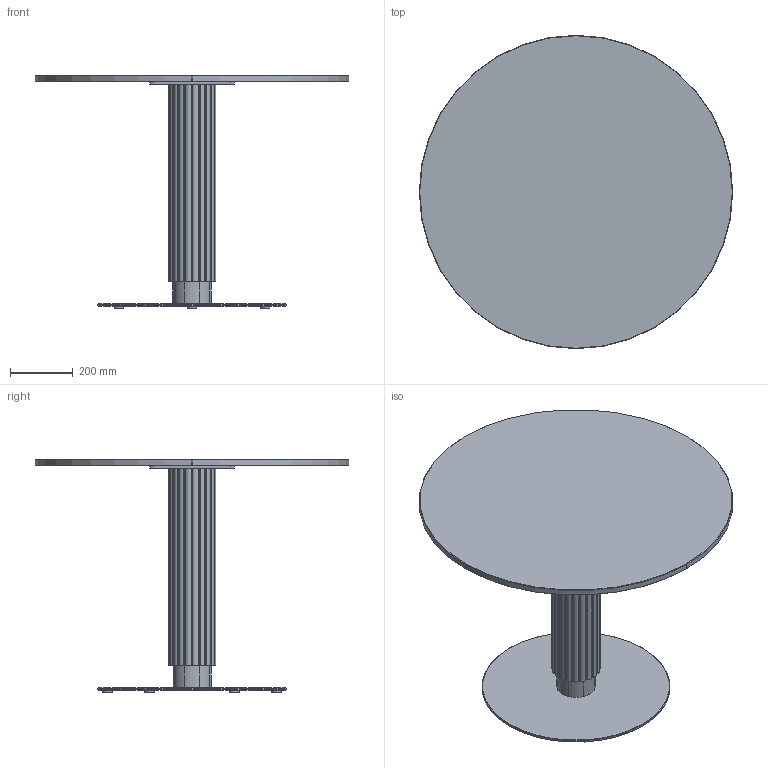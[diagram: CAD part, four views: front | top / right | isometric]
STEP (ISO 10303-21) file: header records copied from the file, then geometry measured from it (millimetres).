
FILE_DESCRIPTION( ('This file contains a STEP AP42 implementation' ,'as created by ZW3D STEP Interface translator.') ,'2;1' );
FILE_NAME( 'God - B_Rond - F1 - M1 - 1000 x 1000 x 750.stp' ,'24 912.112930', (''), ('ZWCAD Software Co.'), 'Version 1.0', 'ZW3D to STEP translator', '' );
FILE_SCHEMA(('AUTOMOTIVE_DESIGN { 1 0 10303 214 1 1 1 1 }'));
Length unit declared in the file: millimetre
Products named in the file (15): 0; PIED BISTROT PARAMETRIQUE_; CROIX ACIER 370 V.02_; CRX-X370-02_; SOCLE ACIER C Ø600 V.02_; SCL-D600-02_; PLA-R30A-01_; PLA-R30A-01; COLONNE ACIER Ø48.5 V.02_; TUB-D048-02_; PLA-R48A-01_; Colonne GODRON H700_; WUERTH 0276063020 Euro-screw 6.3x2 Verzinkt_; PLATEAU BISTROT PARAMETRIQUE_; insert_m6_13_
Assembly tree (25 placements, depth 3):
  0
  PIED BISTROT PARAMETRIQUE_
    CROIX ACIER 370 V.02_
      CRX-X370-02_
    SOCLE ACIER C Ø600 V.02_
      SCL-D600-02_
      PLA-R30A-01_
      PLA-R30A-01  x5
    COLONNE ACIER Ø48.5 V.02_
      TUB-D048-02_
      PLA-R48A-01_  x2
    Colonne GODRON H700_
    WUERTH 0276063020 Euro-screw 6.3x2 Verzinkt_
    PLATEAU BISTROT PARAMETRIQUE_
      insert_m6_13_  x8
Bounding box: 1000 x 1000 x 744 mm (x, y, z)
Volume: 29038347.5 mm3; surface area: 3628910.4 mm2
Topology: 29 solids, 29 shells, 656 faces, 1625 edges, 1042 vertices
Faces by surface type: plane 294, cylinder 193, bspline 121, cone 47, torus 1
Full cylindrical faces by diameter (mm): 4.88 x1, 6 x8, 6.3 x1, 8 x47, 12 x2, 14 x2, 30 x6, 44.5 x3, 48.5 x1, 600 x1
Entity records: 16234 total; most frequent: CARTESIAN_POINT 4039, DIRECTION 2249, ORIENTED_EDGE 2240, EDGE_CURVE 1120, AXIS2_PLACEMENT_3D 800, VERTEX_POINT 728, VECTOR 649, LINE 649
